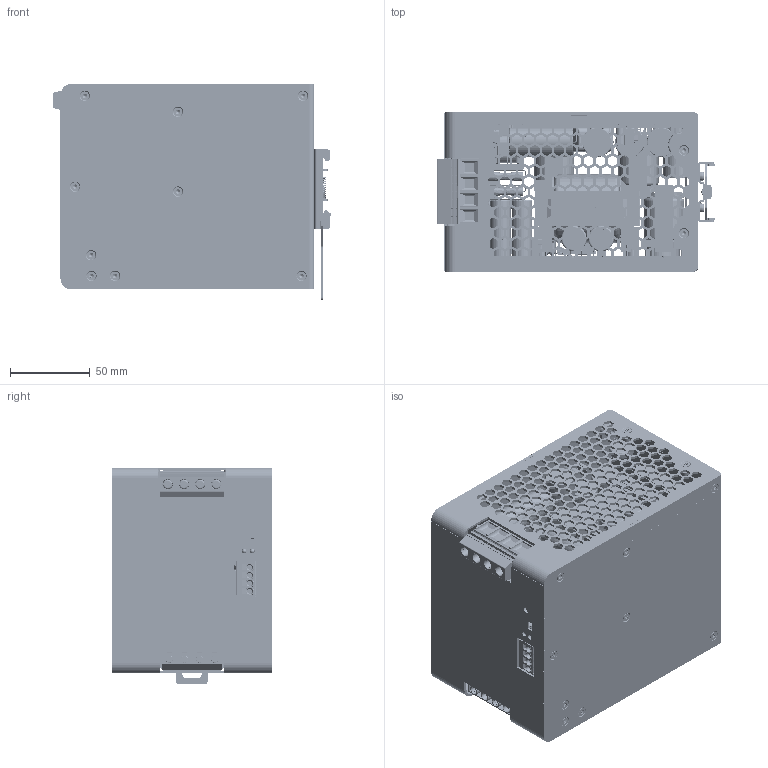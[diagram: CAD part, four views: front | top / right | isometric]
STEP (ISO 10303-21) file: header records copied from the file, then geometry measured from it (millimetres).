
FILE_DESCRIPTION (( 'STEP AP214' ), '1' );
FILE_NAME ('DRB960-xx-3-A0_(Screw)_Assembly_D01.STEP', '2021-08-03T10:55:53', ( '' ), ( '' ), 'SwSTEP 2.0', 'SolidWorks 2018', '' );
FILE_SCHEMA (( 'AUTOMOTIVE_DESIGN' ));
Length unit declared in the file: millimetre
Products named in the file (1167): CAP_ELCO_D18-5x31-5_P7-5^Copia di C5_PCB_DRB960-3_PFC_C01; Copia di C71^PCB_DRB960-3_LLC_C01; R0603^Copia di R108_PCB_DRB960-3_LLC_C01; Copia di J4^PCB_DRB960-3_IO_D01; Copia di R145^PCB_DRB960-3_LLC_C01; Switch_C-K_OS102011MA1QN1; R0603^Copia di R83_PCB_DRB960-3_LLC_C01; Copia di DZ3^PCB_DRB960-3_LLC_C01; Copia di C16^PCB_DRB960-3_PFC_C01; C1206^Copia di C69_PCB_DRB960-3_LLC_C01; Copia di J1^PCB_DRB960-3_BK_C01; R0603^Copia di R136_PCB_DRB960-3_LLC_C01; C1210^Copia di C2_PCB_DRB960-3_LLC_C01; Copia di J1^PCB_DRB960-3_PFC_C01; Copia di R68^PCB_DRB960-3_PFC_C01; Copia di Q19^PCB_DRB960-3_LLC_C01; Copia di C29^PCB_DRB960-3_PFC_C01; C0603^Copia di C61_PCB_DRB960-3_LLC_C01; Copia di R152^PCB_DRB960-3_LLC_C01; IF000003A03_IF-DRB960-3; Copia di VDR2^PCB_DRB960-3_IO_D01; Copia di R27^PCB_DRB960-3_LLC_C01; Copia di D13^PCB_DRB960-3_PFC_C01; Copia di C8^PCB_DRB960-3_PFC_C01; Copia di R68^PCB_DRB960-3_LLC_C01; R0603^Copia di R46_PCB_DRB960-3_LLC_C01; D2PACK^Copia di Q2_PCB_DRB960-3_LLC_C01; R0603^Copia di R66_PCB_DRB960-3_PFC_C01; Copia di C41^PCB_DRB960-3_LLC_C01; SOT-23^Copia di Q23_PCB_DRB960-3_LLC_C01; C0603^Copia di C54_PCB_DRB960-3_LLC_C01; R1206^Copia di R130_PCB_DRB960-3_LLC_C01; C1210^Copia di C1_PCB_DRB960-3_LLC_C01; Copia di DL2^PCB_DRB960-3_LLC_C01; Copia di IC2^PCB_DRB960-3_LLC_C01; Copia di Q12^PCB_DRB960-3_PFC_C01; C0805^Copia di C28_PCB_DRB960-3_LLC_C01; CAP_DISC_16x5_P10^Copia di CY6_PCB_DRB960-3_PFC_C01; Copia di R11^PCB_DRB960-3_LLC_C01; Copia di R123^PCB_DRB960-3_LLC_C01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
Assembly tree (1216 placements, depth 6):
  DRB960-xx-3-A0_(Screw)_Assembly_D01
    EN000012A02_ENC-DRB960-3-A0_Screw
      EN000012A02_ENC-DRB960-3-A0_Screw_without_PEM
      PEM_F-M3-1_(M3x0.5_-_x_th2mm)_by_Miky  x2
    EN000007A02_ENB-DRB960-3A
      EN000007A02_ENB-DRB960-3A_without_PEM
      PEM_F-M3-1_(M3x0.5_-_x_th2mm)_by_Miky  x4
    EN000008B01_ENB-DRB960-3B
      EN000008B01_ENB-DRB960-3B_without_PEM
      PEM_F-M3-1_(M3x0.5_-_x_th2mm)_by_Miky  x4
    PCB_DRB960-3_Assembly_D01_DRB960-xx-3_Screw
      PCB_DRB960-3_PFC_C01
        Copia di IC3^PCB_DRB960-3_PFC_C01
          SOT-23^Copia di IC3_PCB_DRB960-3_PFC_C01
        Copia di R25^PCB_DRB960-3_PFC_C01
          R0603^Copia di R25_PCB_DRB960-3_PFC_C01
        Copia di DL2^PCB_DRB960-3_PFC_C01
          LED_0603_Red^Copia di DL2_PCB_DRB960-3_PFC_C01
        Copia di CY7^PCB_DRB960-3_PFC_C01
          CAP_DISC_12x5_P10^Copia di CY7_PCB_DRB960-3_PFC_C01
        Copia di CY6^PCB_DRB960-3_PFC_C01
          CAP_DISC_16x5_P10^Copia di CY6_PCB_DRB960-3_PFC_C01
        Copia di CY5^PCB_DRB960-3_PFC_C01
          CAP_DISC_16x5_P10^Copia di CY5_PCB_DRB960-3_PFC_C01
        Copia di R107^PCB_DRB960-3_PFC_C01
          R2512^Copia di R107_PCB_DRB960-3_PFC_C01
        Copia di R104^PCB_DRB960-3_PFC_C01
          R2512^Copia di R104_PCB_DRB960-3_PFC_C01
        Copia di L4^PCB_DRB960-3_PFC_C01
          T60-26_with_BASE^Copia di L4_PCB_DRB960-3_PFC_C01
        Copia di R101^PCB_DRB960-3_PFC_C01
          R0603^Copia di R101_PCB_DRB960-3_PFC_C01
        Copia di R100^PCB_DRB960-3_PFC_C01
          R0603^Copia di R100_PCB_DRB960-3_PFC_C01
        Copia di IC5^PCB_DRB960-3_PFC_C01
          SOT23-5^Copia di IC5_PCB_DRB960-3_PFC_C01
        Copia di DZ5^PCB_DRB960-3_PFC_C01
          SOD-123^Copia di DZ5_PCB_DRB960-3_PFC_C01
        Copia di C45^PCB_DRB960-3_PFC_C01
          C0603^Copia di C45_PCB_DRB960-3_PFC_C01
        Copia di LF1^PCB_DRB960-3_PFC_C01
          CMC_LF2519
        Copia di R92^PCB_DRB960-3_PFC_C01
          R-PR02V^Copia di R92_PCB_DRB960-3_PFC_C01
        Copia di J3^PCB_DRB960-3_PFC_C01
          Header_female_SAMTEC_SSQ-102-01-T-S_(2pin_-_p2.54)^Copia di J3_PCB_DRB960-3_PFC_C01
        Copia di J6^PCB_DRB960-3_PFC_C01
          Header_female_SAMTEC_SSQ-102-01-T-S_(2pin_-_p2.54)^Copia di J6_PCB_DRB960-3_PFC_C01
        Copia di J5^PCB_DRB960-3_PFC_C01
          Header_female_SAMTEC_SSQ-102-01-T-S_(2pin_-_p2.54)^Copia di J5_PCB_DRB960-3_PFC_C01
        Copia di J4^PCB_DRB960-3_PFC_C01
          Header_female_SAMTEC_SSQ-102-01-T-S_(2pin_-_p2.54)^Copia di J4_PCB_DRB960-3_PFC_C01
        Copia di C38^PCB_DRB960-3_PFC_C01
          CAP_DISC_11.5x5_P7.5^Copia di C38_PCB_DRB960-3_PFC_C01
        Copia di C37^PCB_DRB960-3_PFC_C01
          CAP_ELCO_D18-5x40_P7-5_RA^Copia di C37_PCB_DRB960-3_PFC_C01
        Copia di C9^PCB_DRB960-3_PFC_C01
          CAP_ELCO_D18-5x40_P7-5_RA^Copia di C9_PCB_DRB960-3_PFC_C01
        Copia di IC1^PCB_DRB960-3_PFC_C01
          SO-16^Copia di IC1_PCB_DRB960-3_PFC_C01
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Bounding box: 174.4 x 100.05 x 135.7 mm (x, y, z)
Volume: 681623.9 mm3; surface area: 661828.5 mm2
Topology: 1541 solids, 1542 shells, 38278 faces, 94743 edges, 57503 vertices
Faces by surface type: plane 20991, cylinder 13096, sphere 2820, torus 594, cone 489, bspline 288
Entity records: 1137408 total; most frequent: CARTESIAN_POINT 198573, DIRECTION 185812, ORIENTED_EDGE 173724, EDGE_CURVE 86862, AXIS2_PLACEMENT_3D 63152, VECTOR 59508, LINE 59508, VERTEX_POINT 54298
